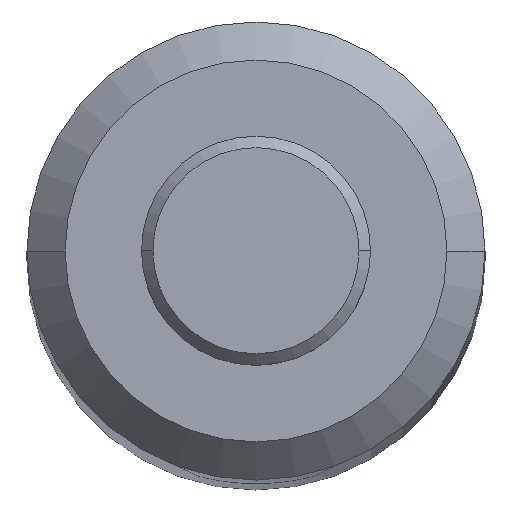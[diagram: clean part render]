
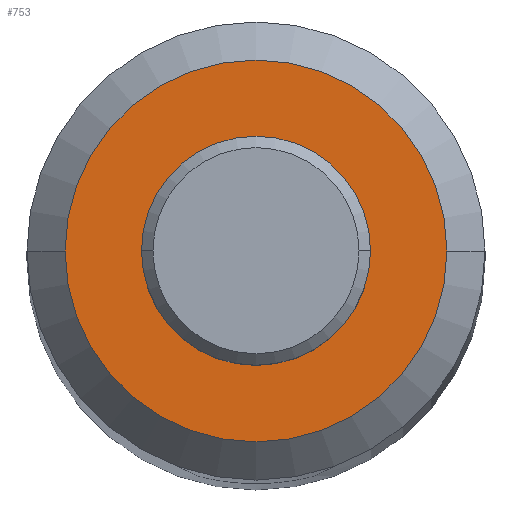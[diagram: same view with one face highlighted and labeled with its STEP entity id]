
A CAD part, top view. The second image highlights one B-rep face of the part: STEP entity #753.
In plain terms, the highlighted planar face has unit normal (0, 0, 1).
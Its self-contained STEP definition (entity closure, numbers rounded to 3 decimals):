
#1 = VERTEX_POINT ( 'NONE', #188 ) ;
#2 = AXIS2_PLACEMENT_3D ( 'NONE', #309, #306, #180 ) ;
#8 = ORIENTED_EDGE ( 'NONE', *, *, #650, .F. ) ;
#17 = AXIS2_PLACEMENT_3D ( 'NONE', #742, #628, #328 ) ;
#20 = CARTESIAN_POINT ( 'NONE',  ( -2.25, 0., 150. ) ) ;
#32 = AXIS2_PLACEMENT_3D ( 'NONE', #437, #250, #497 ) ;
#38 = DIRECTION ( 'NONE',  ( 1., 0., 0. ) ) ;
#53 = EDGE_LOOP ( 'NONE', ( #8, #85 ) ) ;
#85 = ORIENTED_EDGE ( 'NONE', *, *, #457, .F. ) ;
#104 = FACE_OUTER_BOUND ( 'NONE', #158, .T. ) ;
#105 = ORIENTED_EDGE ( 'NONE', *, *, #599, .T. ) ;
#131 = PLANE ( 'NONE',  #2 ) ;
#132 = DIRECTION ( 'NONE',  ( 1., 0., 0. ) ) ;
#134 = CARTESIAN_POINT ( 'NONE',  ( 0., 0., 150. ) ) ;
#154 = DIRECTION ( 'NONE',  ( 0., 0., 1. ) ) ;
#158 = EDGE_LOOP ( 'NONE', ( #105, #603 ) ) ;
#180 = DIRECTION ( 'NONE',  ( 1., 0., 0. ) ) ;
#188 = CARTESIAN_POINT ( 'NONE',  ( 2.25, 0., 150. ) ) ;
#246 = AXIS2_PLACEMENT_3D ( 'NONE', #506, #154, #38 ) ;
#250 = DIRECTION ( 'NONE',  ( 0., 0., 1. ) ) ;
#261 = VERTEX_POINT ( 'NONE', #395 ) ;
#281 = AXIS2_PLACEMENT_3D ( 'NONE', #134, #667, #132 ) ;
#306 = DIRECTION ( 'NONE',  ( 0., 0., 1. ) ) ;
#309 = CARTESIAN_POINT ( 'NONE',  ( 0., 0., 150. ) ) ;
#328 = DIRECTION ( 'NONE',  ( 1., 0., 0. ) ) ;
#367 = VERTEX_POINT ( 'NONE', #748 ) ;
#376 = CIRCLE ( 'NONE', #281, 2.25 ) ;
#389 = FACE_BOUND ( 'NONE', #53, .T. ) ;
#395 = CARTESIAN_POINT ( 'NONE',  ( 5., 0., 150. ) ) ;
#398 = CIRCLE ( 'NONE', #17, 5. ) ;
#437 = CARTESIAN_POINT ( 'NONE',  ( 0., 0., 150. ) ) ;
#457 = EDGE_CURVE ( 'NONE', #1, #508, #376, .T. ) ;
#487 = EDGE_CURVE ( 'NONE', #261, #367, #646, .T. ) ;
#497 = DIRECTION ( 'NONE',  ( 1., 0., 0. ) ) ;
#506 = CARTESIAN_POINT ( 'NONE',  ( 0., 0., 150. ) ) ;
#508 = VERTEX_POINT ( 'NONE', #20 ) ;
#567 = CIRCLE ( 'NONE', #246, 2.25 ) ;
#599 = EDGE_CURVE ( 'NONE', #367, #261, #398, .T. ) ;
#603 = ORIENTED_EDGE ( 'NONE', *, *, #487, .T. ) ;
#628 = DIRECTION ( 'NONE',  ( 0., 0., 1. ) ) ;
#646 = CIRCLE ( 'NONE', #32, 5. ) ;
#650 = EDGE_CURVE ( 'NONE', #508, #1, #567, .T. ) ;
#667 = DIRECTION ( 'NONE',  ( 0., 0., 1. ) ) ;
#742 = CARTESIAN_POINT ( 'NONE',  ( 0., 0., 150. ) ) ;
#748 = CARTESIAN_POINT ( 'NONE',  ( -5., 0., 150. ) ) ;
#753 = ADVANCED_FACE ( 'NONE', ( #104, #389 ), #131, .T. ) ;
